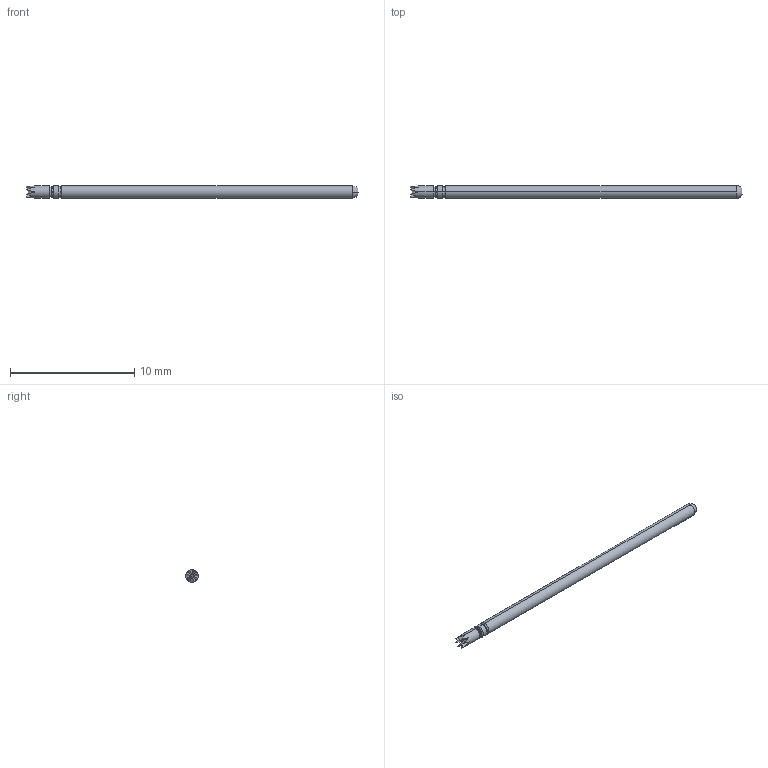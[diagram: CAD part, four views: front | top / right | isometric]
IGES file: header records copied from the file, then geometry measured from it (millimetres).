
Start section: SolidWorks IGES file using analytic representation for surfaces
Global section: file name: Z:\probe solid model mockups\Solidworks models\IGES Files\LFRE-1 IGES files\LFRE-1Z1 FULL.IGS; native system: SolidWorks 2016; preprocessor: SolidWorks 2016; author: mlee; date: 180928.083816; units: inch
Bounding box: 26.67 x 1.02 x 1.02 mm (x, y, z)
Surface area: 87.3 mm2 (no closed solid volume)
Topology: 0 solids, 0 shells, 36 faces, 202 edges, 202 vertices
Faces by surface type: bspline 22, revolution 14
